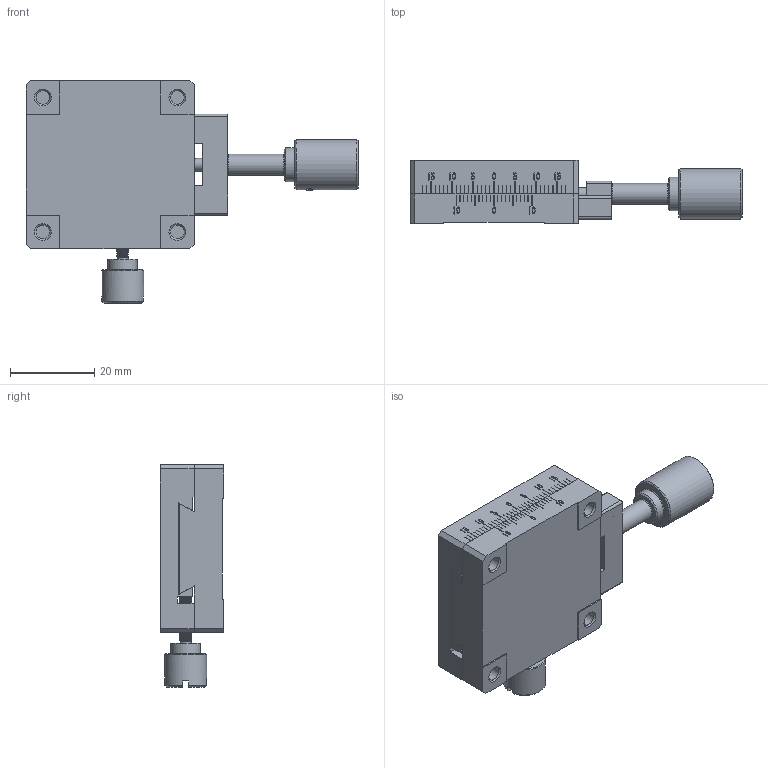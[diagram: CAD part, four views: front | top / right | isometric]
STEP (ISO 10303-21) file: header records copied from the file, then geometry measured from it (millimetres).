
FILE_DESCRIPTION (( 'STEP AP203' ), '1' );
FILE_NAME ('BFES40.STEP', '2024-07-02T02:10:41', ( 'Windows User' ), ( 'P R C' ), 'SwSTEP 2.0', 'SolidWorks 2024', '' );
FILE_SCHEMA (( 'CONFIG_CONTROL_DESIGN' ));
Length unit declared in the file: millimetre
Products named in the file (1): BFES40
Bounding box: 79 x 15 x 52.95 mm (x, y, z)
Volume: 25166.7 mm3; surface area: 16065.2 mm2
Topology: 10 solids, 10 shells, 818 faces, 2200 edges, 1447 vertices
Faces by surface type: plane 544, bspline 141, cylinder 90, cone 39, torus 4
Full cylindrical faces by diameter (mm): 2.05 x6, 2.459 x8, 2.5 x5, 2.6 x1, 2.9 x2, 3 x38, 3.242 x4, 4 x2, 4.5 x2, 5 x5, 6.5 x4, 7 x1, 8 x1, 10 x1, 12 x1
Entity records: 37054 total; most frequent: CARTESIAN_POINT 19584, ORIENTED_EDGE 3960, DIRECTION 2732, EDGE_CURVE 1980, VERTEX_POINT 1348, LINE 1104, VECTOR 1104, EDGE_LOOP 948
